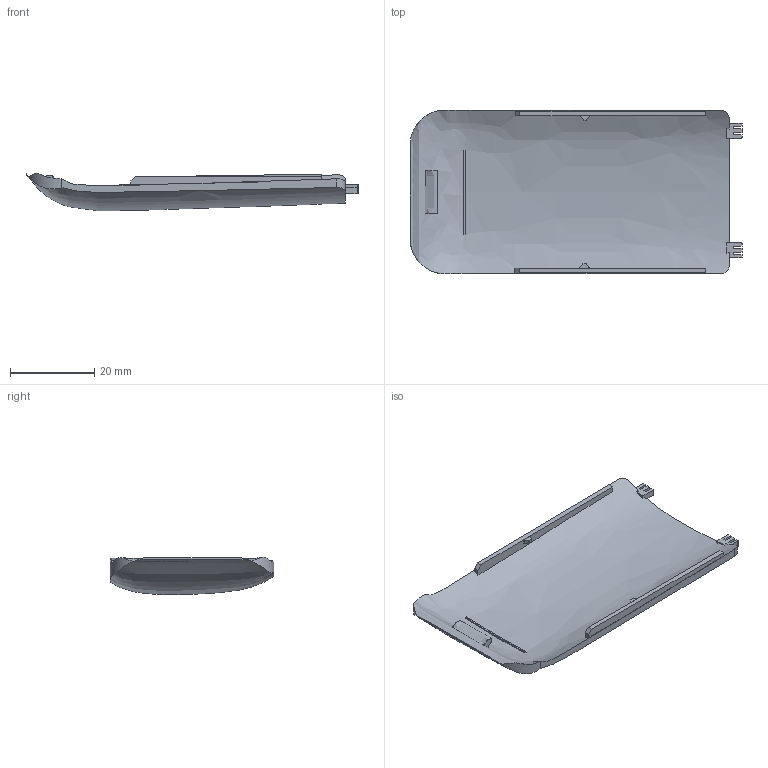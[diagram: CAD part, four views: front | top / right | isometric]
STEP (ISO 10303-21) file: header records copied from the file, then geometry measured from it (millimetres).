
FILE_DESCRIPTION(('Open CASCADE Model'),'2;1');
FILE_NAME('Open CASCADE Shape Model','2026-11-05T21:49:22',('Author'),( 'Open CASCADE'),'Open CASCADE STEP processor 7.8','Open CASCADE 7.8' ,'Unknown');
FILE_SCHEMA(('AUTOMOTIVE_DESIGN { 1 0 10303 214 1 1 1 1 }'));
Length unit declared in the file: millimetre
Products named in the file (1): Open CASCADE STEP translator 7.8 1
Bounding box: 79.02 x 39.02 x 8.88 mm (x, y, z)
Volume: 7328.5 mm3; surface area: 7104.8 mm2
Topology: 1 solids, 1 shells, 81 faces, 255 edges, 182 vertices
Faces by surface type: plane 58, cylinder 16, bspline 5, extrusion 2
Entity records: 32194 total; most frequent: CARTESIAN_POINT 27835, DIRECTION 567, ORIENTED_EDGE 510, PCURVE 510, DEFINITIONAL_REPRESENTATION 510, B_SPLINE_CURVE_WITH_KNOTS 366, VECTOR 353, LINE 351
